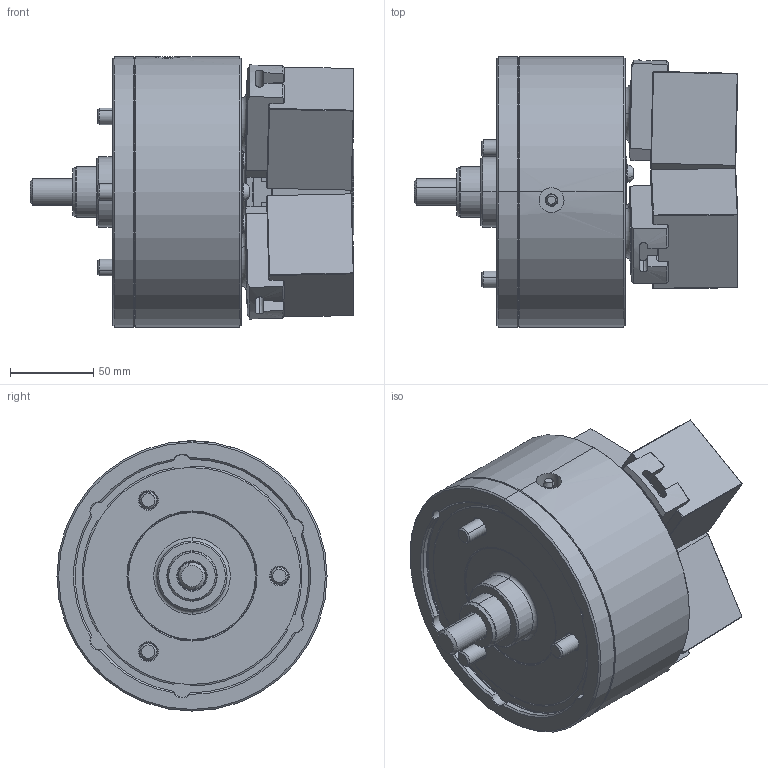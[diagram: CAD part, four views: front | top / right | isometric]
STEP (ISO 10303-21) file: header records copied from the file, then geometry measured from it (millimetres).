
FILE_DESCRIPTION (( 'STEP AP214' ), '1' );
FILE_NAME ('PW06_OC.STEP', '2019-10-03T01:59:13', ( '' ), ( '' ), 'SwSTEP 2.0', 'SolidWorks 2017', '' );
FILE_SCHEMA (( 'AUTOMOTIVE_DESIGN' ));
Length unit declared in the file: millimetre
Products named in the file (5): 結合_OD; 0030110016; 61P422013; 61P324975; PW06_OC
Assembly tree (13 placements, depth 2):
  PW06_OC
    61P324975  x3
    61P422013  x3
    0030110016  x6
    結合_OD
Bounding box: 194.18 x 162 x 162 mm (x, y, z)
Volume: 2043940.5 mm3; surface area: 230297.4 mm2
Topology: 13 solids, 14 shells, 1741 faces, 4270 edges, 2668 vertices
Faces by surface type: plane 848, cone 315, cylinder 276, bspline 241, torus 61
Entity records: 52829 total; most frequent: CARTESIAN_POINT 20151, ORIENTED_EDGE 7160, DIRECTION 5920, EDGE_CURVE 3580, VERTEX_POINT 2273, AXIS2_PLACEMENT_3D 1999, VECTOR 1922, LINE 1922
